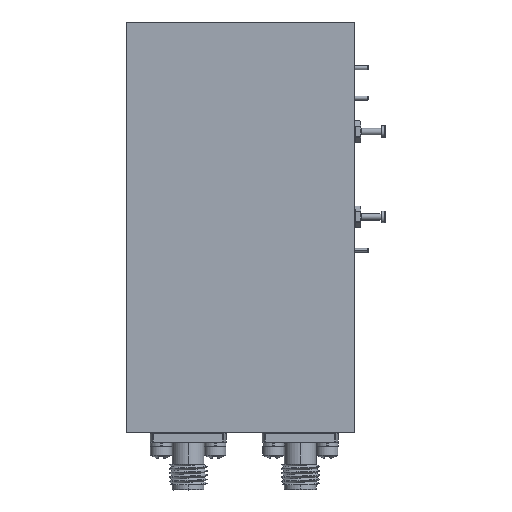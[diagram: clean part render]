
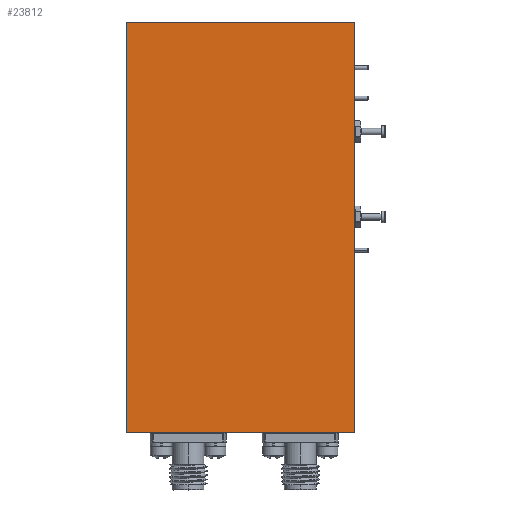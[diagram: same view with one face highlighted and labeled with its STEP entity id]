
A CAD part, front view. The second image highlights one B-rep face of the part: STEP entity #23812.
In plain terms, the highlighted planar face has unit normal (0, -1, 0).
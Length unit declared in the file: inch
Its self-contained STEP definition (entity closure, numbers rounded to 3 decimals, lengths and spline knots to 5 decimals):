
#136 = CARTESIAN_POINT ( 'NONE',  ( 0., 0., -2.7 ) ) ;
#831 = VERTEX_POINT ( 'NONE', #74883 ) ;
#4077 = DIRECTION ( 'NONE',  ( 1., 0., 0. ) ) ;
#9950 = EDGE_CURVE ( 'NONE', #78710, #831, #69927, .T. ) ;
#13693 = LINE ( 'NONE', #136, #80039 ) ;
#16800 = EDGE_CURVE ( 'NONE', #20280, #831, #23433, .T. ) ;
#20280 = VERTEX_POINT ( 'NONE', #56247 ) ;
#21045 = CARTESIAN_POINT ( 'NONE',  ( 0., 0., -2.7 ) ) ;
#22327 = PLANE ( 'NONE',  #71404 ) ;
#23433 = LINE ( 'NONE', #30842, #49293 ) ;
#23812 = ADVANCED_FACE ( 'NONE', ( #67264 ), #22327, .T. ) ;
#24713 = EDGE_CURVE ( 'NONE', #54997, #20280, #84602, .T. ) ;
#30842 = CARTESIAN_POINT ( 'NONE',  ( 1.5, 0., -2.7 ) ) ;
#31699 = DIRECTION ( 'NONE',  ( 1., 0., 0. ) ) ;
#36483 = EDGE_CURVE ( 'NONE', #54997, #78710, #13693, .T. ) ;
#41504 = DIRECTION ( 'NONE',  ( 0., -1., 0. ) ) ;
#44411 = CARTESIAN_POINT ( 'NONE',  ( 0., 0., -2.7 ) ) ;
#45835 = ORIENTED_EDGE ( 'NONE', *, *, #36483, .F. ) ;
#47179 = CARTESIAN_POINT ( 'NONE',  ( 0., 0., 0. ) ) ;
#49293 = VECTOR ( 'NONE', #58707, 39.37008 ) ;
#50562 = EDGE_LOOP ( 'NONE', ( #70377, #45835, #51653, #85879 ) ) ;
#51295 = CARTESIAN_POINT ( 'NONE',  ( 0., 0., -2.7 ) ) ;
#51653 = ORIENTED_EDGE ( 'NONE', *, *, #24713, .T. ) ;
#54997 = VERTEX_POINT ( 'NONE', #51295 ) ;
#56247 = CARTESIAN_POINT ( 'NONE',  ( 1.5, 0., -2.7 ) ) ;
#58707 = DIRECTION ( 'NONE',  ( 0., 0., 1. ) ) ;
#63825 = CARTESIAN_POINT ( 'NONE',  ( 0., 0., 0. ) ) ;
#66031 = DIRECTION ( 'NONE',  ( 0., 0., 1. ) ) ;
#67264 = FACE_OUTER_BOUND ( 'NONE', #50562, .T. ) ;
#68953 = VECTOR ( 'NONE', #4077, 39.37008 ) ;
#68962 = DIRECTION ( 'NONE',  ( 0., 0., -1. ) ) ;
#69927 = LINE ( 'NONE', #63825, #68953 ) ;
#70377 = ORIENTED_EDGE ( 'NONE', *, *, #9950, .F. ) ;
#71404 = AXIS2_PLACEMENT_3D ( 'NONE', #21045, #41504, #68962 ) ;
#71636 = VECTOR ( 'NONE', #31699, 39.37008 ) ;
#74883 = CARTESIAN_POINT ( 'NONE',  ( 1.5, 0., 0. ) ) ;
#78710 = VERTEX_POINT ( 'NONE', #47179 ) ;
#80039 = VECTOR ( 'NONE', #66031, 39.37008 ) ;
#84602 = LINE ( 'NONE', #44411, #71636 ) ;
#85879 = ORIENTED_EDGE ( 'NONE', *, *, #16800, .T. ) ;
